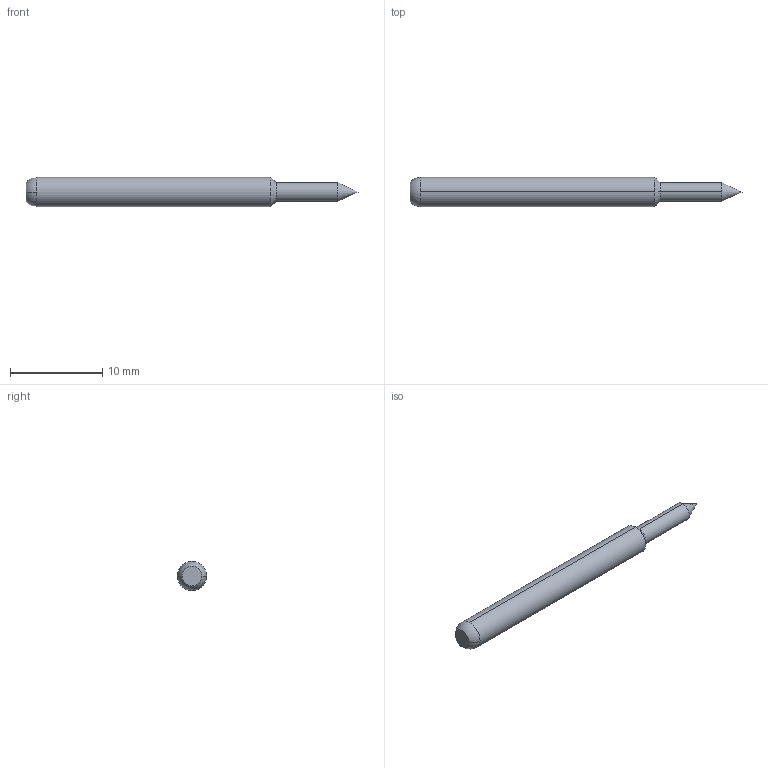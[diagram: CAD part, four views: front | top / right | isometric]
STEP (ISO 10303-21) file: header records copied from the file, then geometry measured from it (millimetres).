
FILE_DESCRIPTION (( 'STEP AP214' ), '1' );
FILE_NAME ('PA7B.STEP', '2025-04-17T13:02:54', ( '' ), ( '' ), 'SwSTEP 2.0', 'SolidWorks 2024', '' );
FILE_SCHEMA (( 'AUTOMOTIVE_DESIGN' ));
Length unit declared in the file: millimetre
Products named in the file (1): PA7B
Bounding box: 36.07 x 3.17 x 3.17 mm (x, y, z)
Volume: 236.2 mm3; surface area: 326.2 mm2
Topology: 1 solids, 1 shells, 11 faces, 26 edges, 13 vertices
Faces by surface type: cone 4, cylinder 4, sphere 2, plane 1
Entity records: 434 total; most frequent: DIRECTION 60, CARTESIAN_POINT 47, ORIENTED_EDGE 44, AXIS2_PLACEMENT_3D 26, EDGE_CURVE 22, CIRCLE 14, UNCERTAINTY_MEASURE_WITH_UNIT 13, VERTEX_POINT 13
